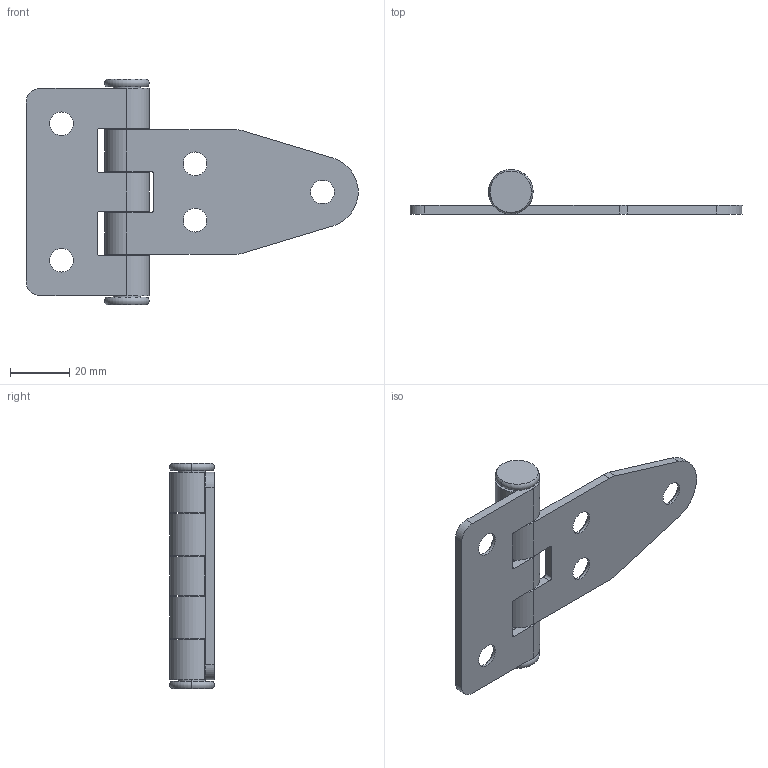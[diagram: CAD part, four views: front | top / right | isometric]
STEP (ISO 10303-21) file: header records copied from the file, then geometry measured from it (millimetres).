
FILE_DESCRIPTION (( 'STEP AP214' ), '1' );
FILE_NAME ('SK2-115-1.STEP', '2020-03-27T01:25:06', ( 'admin' ), ( 'Microsoft' ), 'SwSTEP 2.0', 'SolidWorks 2018', '' );
FILE_SCHEMA (( 'AUTOMOTIVE_DESIGN' ));
Length unit declared in the file: millimetre
Products named in the file (4): 2-115-1-F3; 2-115-1-F2; 2-115-1-F1; SK2-115-1
Assembly tree (3 placements, depth 2):
  SK2-115-1
    2-115-1-F1
    2-115-1-F2
    2-115-1-F3
Bounding box: 111.96 x 14.99 x 76 mm (x, y, z)
Volume: 24848.3 mm3; surface area: 18622.8 mm2
Topology: 3 solids, 3 shells, 86 faces, 204 edges, 126 vertices
Faces by surface type: plane 39, cylinder 33, cone 10, torus 4
Entity records: 2650 total; most frequent: DIRECTION 476, CARTESIAN_POINT 422, ORIENTED_EDGE 408, EDGE_CURVE 204, AXIS2_PLACEMENT_3D 180, VERTEX_POINT 126, LINE 116, VECTOR 116
